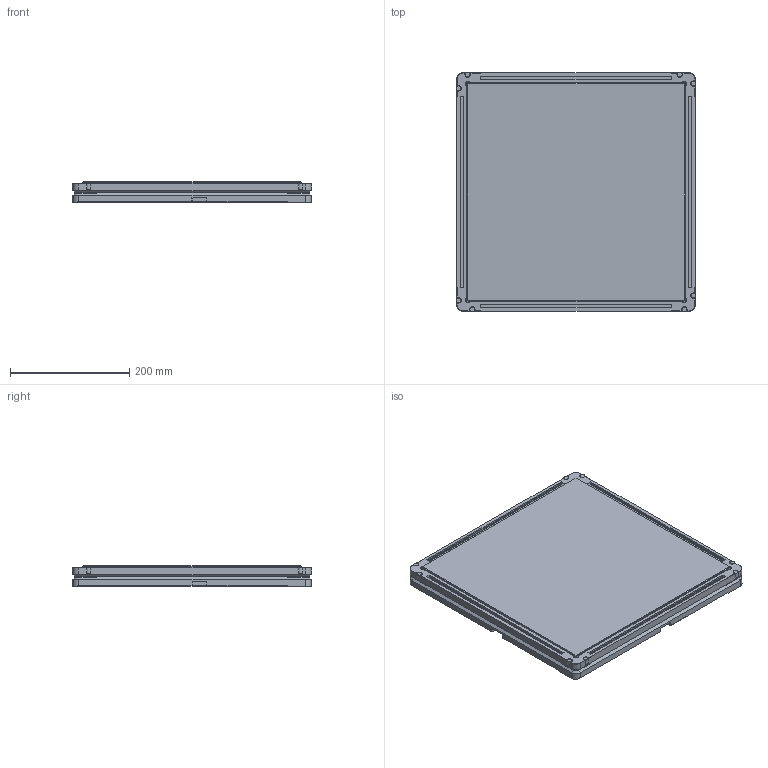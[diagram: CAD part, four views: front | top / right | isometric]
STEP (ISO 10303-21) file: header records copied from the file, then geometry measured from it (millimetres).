
FILE_DESCRIPTION(/* description */ (''),/* implementation_level */ '2;1');
FILE_NAME(/* name */ 'C:\Marketing\01_Versamove-SPU_STEP-Dateien-Homepage\Versamove plus\Werstüclträger_WT2010_400x400.stp',/* time_stamp */ '2016-12-22T15:52:54+01:00',/* author */ ('herbert.engels'),/* organization */ (''),/* preprocessor_version */ 'ST-DEVELOPER v15.6',/* originating_system */ 'Autodesk Inventor 2015',/* authorisation */ '');
FILE_SCHEMA (('CONFIG_CONTROL_DESIGN'));
Length unit declared in the file: millimetre
Products named in the file (1): Werstüclträger_WT2010_400x400
Bounding box: 402.5 x 402.5 x 35 mm (x, y, z)
Volume: 2568976.3 mm3; surface area: 469070.4 mm2
Topology: 1 solids, 1 shells, 295 faces, 772 edges, 488 vertices
Faces by surface type: plane 227, cylinder 40, cone 24, torus 4
Full cylindrical faces by diameter (mm): 8 x8, 13 x4
Entity records: 9194 total; most frequent: CARTESIAN_POINT 1616, ORIENTED_EDGE 1504, DIRECTION 1420, EDGE_CURVE 752, LINE 612, VECTOR 612, VERTEX_POINT 480, AXIS2_PLACEMENT_3D 404
